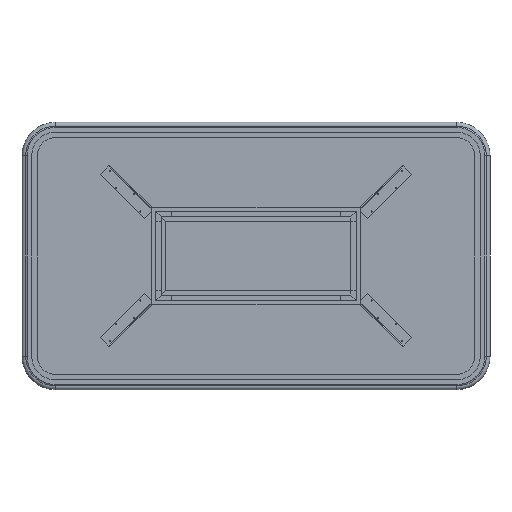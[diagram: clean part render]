
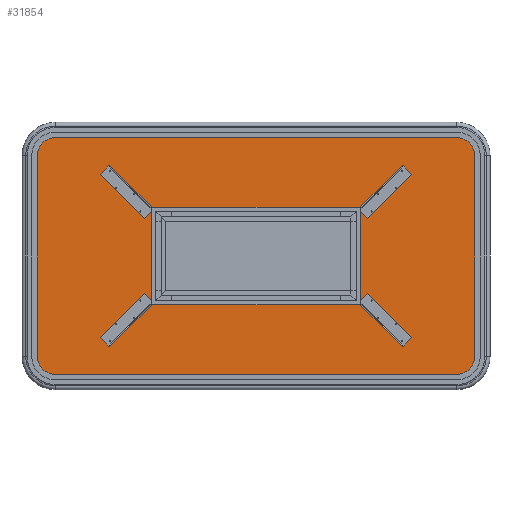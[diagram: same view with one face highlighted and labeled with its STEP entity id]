
A CAD part, front view. The second image highlights one B-rep face of the part: STEP entity #31854.
In plain terms, the highlighted planar face has unit normal (0, -1, 0).
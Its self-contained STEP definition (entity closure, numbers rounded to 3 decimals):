
#3692=FACE_BOUND('',#6516,.T.);
#3880=PLANE('',#34791);
#4842=FACE_OUTER_BOUND('',#6515,.T.);
#6515=EDGE_LOOP('',(#22648,#22649,#22650,#22651,#22652,#22653,#22654,#22655));
#6516=EDGE_LOOP('',(#22656,#22657,#22658,#22659));
#8347=LINE('',#48441,#11323);
#8351=LINE('',#48449,#11327);
#8354=LINE('',#48455,#11330);
#8357=LINE('',#48460,#11333);
#8361=LINE('',#48473,#11337);
#8365=LINE('',#48485,#11341);
#8369=LINE('',#48497,#11345);
#8373=LINE('',#48508,#11349);
#11323=VECTOR('',#38346,0.394);
#11327=VECTOR('',#38352,0.394);
#11330=VECTOR('',#38357,0.394);
#11333=VECTOR('',#38362,0.394);
#11337=VECTOR('',#38374,0.394);
#11341=VECTOR('',#38386,0.394);
#11345=VECTOR('',#38398,0.394);
#11349=VECTOR('',#38410,0.394);
#14301=CIRCLE('',#34775,4.25);
#14303=CIRCLE('',#34779,4.25);
#14305=CIRCLE('',#34783,4.25);
#14307=CIRCLE('',#34787,4.25);
#15438=VERTEX_POINT('',#48439);
#15439=VERTEX_POINT('',#48440);
#15442=VERTEX_POINT('',#48448);
#15444=VERTEX_POINT('',#48454);
#15446=VERTEX_POINT('',#48463);
#15447=VERTEX_POINT('',#48464);
#15450=VERTEX_POINT('',#48472);
#15452=VERTEX_POINT('',#48478);
#15454=VERTEX_POINT('',#48484);
#15456=VERTEX_POINT('',#48490);
#15458=VERTEX_POINT('',#48496);
#15460=VERTEX_POINT('',#48502);
#18229=EDGE_CURVE('',#15438,#15439,#8347,.T.);
#18233=EDGE_CURVE('',#15439,#15442,#8351,.T.);
#18236=EDGE_CURVE('',#15442,#15444,#8354,.T.);
#18239=EDGE_CURVE('',#15444,#15438,#8357,.T.);
#18241=EDGE_CURVE('',#15446,#15447,#14301,.T.);
#18245=EDGE_CURVE('',#15450,#15446,#8361,.T.);
#18248=EDGE_CURVE('',#15452,#15450,#14303,.T.);
#18251=EDGE_CURVE('',#15454,#15452,#8365,.T.);
#18254=EDGE_CURVE('',#15456,#15454,#14305,.T.);
#18257=EDGE_CURVE('',#15458,#15456,#8369,.T.);
#18260=EDGE_CURVE('',#15460,#15458,#14307,.T.);
#18263=EDGE_CURVE('',#15447,#15460,#8373,.T.);
#22648=ORIENTED_EDGE('',*,*,#18263,.F.);
#22649=ORIENTED_EDGE('',*,*,#18241,.F.);
#22650=ORIENTED_EDGE('',*,*,#18245,.F.);
#22651=ORIENTED_EDGE('',*,*,#18248,.F.);
#22652=ORIENTED_EDGE('',*,*,#18251,.F.);
#22653=ORIENTED_EDGE('',*,*,#18254,.F.);
#22654=ORIENTED_EDGE('',*,*,#18257,.F.);
#22655=ORIENTED_EDGE('',*,*,#18260,.F.);
#22656=ORIENTED_EDGE('',*,*,#18236,.T.);
#22657=ORIENTED_EDGE('',*,*,#18239,.T.);
#22658=ORIENTED_EDGE('',*,*,#18229,.T.);
#22659=ORIENTED_EDGE('',*,*,#18233,.T.);
#31854=ADVANCED_FACE('',(#4842,#3692),#3880,.F.);
#34775=AXIS2_PLACEMENT_3D('',#48465,#38366,#38367);
#34779=AXIS2_PLACEMENT_3D('',#48479,#38379,#38380);
#34783=AXIS2_PLACEMENT_3D('',#48491,#38391,#38392);
#34787=AXIS2_PLACEMENT_3D('',#48503,#38403,#38404);
#34791=AXIS2_PLACEMENT_3D('',#48511,#38414,#38415);
#38346=DIRECTION('',(0.,0.,1.));
#38352=DIRECTION('',(1.,0.,0.));
#38357=DIRECTION('',(0.,0.,-1.));
#38362=DIRECTION('',(-1.,0.,0.));
#38366=DIRECTION('center_axis',(0.,1.,0.));
#38367=DIRECTION('ref_axis',(-1.,0.,0.));
#38374=DIRECTION('',(0.,0.,1.));
#38379=DIRECTION('center_axis',(0.,1.,0.));
#38380=DIRECTION('ref_axis',(0.,0.,-1.));
#38386=DIRECTION('',(-1.,0.,0.));
#38391=DIRECTION('center_axis',(0.,1.,0.));
#38392=DIRECTION('ref_axis',(1.,0.,0.));
#38398=DIRECTION('',(0.,0.,-1.));
#38403=DIRECTION('center_axis',(0.,1.,0.));
#38404=DIRECTION('ref_axis',(0.,0.,1.));
#38410=DIRECTION('',(1.,0.,0.));
#38414=DIRECTION('center_axis',(0.,1.,0.));
#38415=DIRECTION('ref_axis',(0.,0.,1.));
#48439=CARTESIAN_POINT('',(38.438,0.,-27.));
#48440=CARTESIAN_POINT('',(38.438,0.,-21.));
#48441=CARTESIAN_POINT('',(38.438,0.,-22.5));
#48448=CARTESIAN_POINT('',(46.313,0.,-21.));
#48449=CARTESIAN_POINT('',(44.156,0.,-21.));
#48454=CARTESIAN_POINT('',(46.313,0.,-27.));
#48455=CARTESIAN_POINT('',(46.313,0.,-25.5));
#48460=CARTESIAN_POINT('',(40.219,0.,-27.));
#48463=CARTESIAN_POINT('',(1.75,0.,-6.));
#48464=CARTESIAN_POINT('',(6.,0.,-1.75));
#48465=CARTESIAN_POINT('Origin',(6.,0.,-6.));
#48472=CARTESIAN_POINT('',(1.75,0.,-42.));
#48473=CARTESIAN_POINT('',(1.75,0.,-42.));
#48478=CARTESIAN_POINT('',(6.,0.,-46.25));
#48479=CARTESIAN_POINT('Origin',(6.,0.,-42.));
#48484=CARTESIAN_POINT('',(78.,0.,-46.25));
#48485=CARTESIAN_POINT('',(78.,0.,-46.25));
#48490=CARTESIAN_POINT('',(82.25,0.,-42.));
#48491=CARTESIAN_POINT('Origin',(78.,0.,-42.));
#48496=CARTESIAN_POINT('',(82.25,0.,-6.));
#48497=CARTESIAN_POINT('',(82.25,0.,-6.));
#48502=CARTESIAN_POINT('',(78.,0.,-1.75));
#48503=CARTESIAN_POINT('Origin',(78.,0.,-6.));
#48508=CARTESIAN_POINT('',(6.,0.,-1.75));
#48511=CARTESIAN_POINT('Origin',(42.,0.,-24.));
